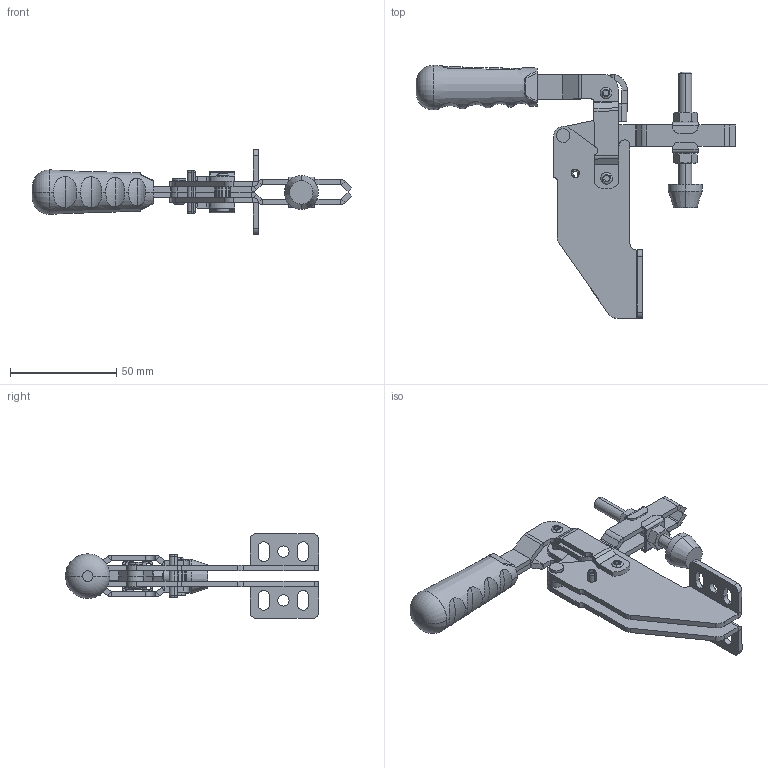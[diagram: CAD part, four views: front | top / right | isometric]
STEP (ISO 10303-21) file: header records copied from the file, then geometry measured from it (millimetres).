
FILE_DESCRIPTION (( 'STEP AP203' ), '1' );
FILE_NAME ('1202_A.STEP', '2022-11-25T06:27:23', ( '' ), ( '' ), 'SwSTEP 2.0', 'SolidWorks 2023', '' );
FILE_SCHEMA (( 'CONFIG_CONTROL_DESIGN' ));
Length unit declared in the file: millimetre
Products named in the file (15): 1202_Mafsal_Varsayılan; 1302_UFA-Govde; 1202_A; 1302_Hareket kolu_Varsayılan; M6 Somun_Varsayılan; M6 Baskı Grubu_Varsayılan; Aynalama1302_Hareket kolu_Varsayılan; Pim_4x12_5_Varsayılan; M6 Askı_Varsayılan; Burc_7x4x10_Varsayılan; Pim_4x17_5_Varsayılan; M6 Baskı_Varsayılan; Yarıklı Pim_4x20_Varsayılan; C55_T(YENİ_TUTAMAK)_Varsayılan; 1202_Y_baskı kolu_Varsayılan
Assembly tree (19 placements, depth 3):
  1202_A
    1302_UFA-Govde
    1202_Mafsal_Varsayılan
    Pim_4x17_5_Varsayılan  x2
    Pim_4x12_5_Varsayılan  x2
    Yarıklı Pim_4x20_Varsayılan
    Burc_7x4x10_Varsayılan
    M6 Baskı Grubu_Varsayılan
      M6 Baskı_Varsayılan
      M6 Askı_Varsayılan  x2
      M6 Somun_Varsayılan  x2
    1302_Hareket kolu_Varsayılan
    Aynalama1302_Hareket kolu_Varsayılan
    1202_Y_baskı kolu_Varsayılan  x2
    C55_T(YENİ_TUTAMAK)_Varsayılan
Bounding box: 150.69 x 119.35 x 40 mm (x, y, z)
Volume: 46744.4 mm3; surface area: 39102.8 mm2
Topology: 19 solids, 19 shells, 927 faces, 2274 edges, 1414 vertices
Faces by surface type: plane 587, cylinder 262, cone 36, torus 34, bspline 8
Entity records: 24613 total; most frequent: CARTESIAN_POINT 5344, DIRECTION 3722, ORIENTED_EDGE 3592, EDGE_CURVE 1796, AXIS2_PLACEMENT_3D 1262, LINE 1198, VECTOR 1198, VERTEX_POINT 1122
